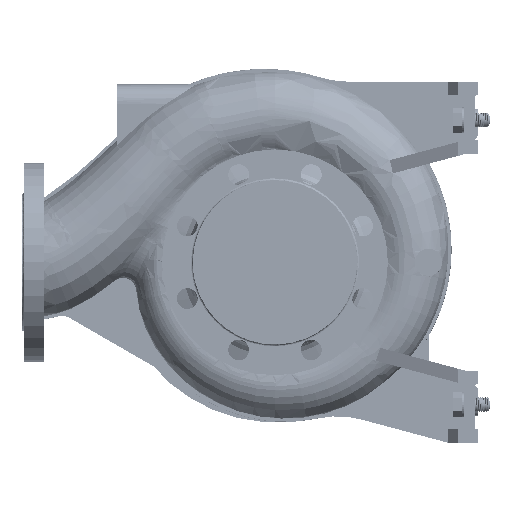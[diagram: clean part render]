
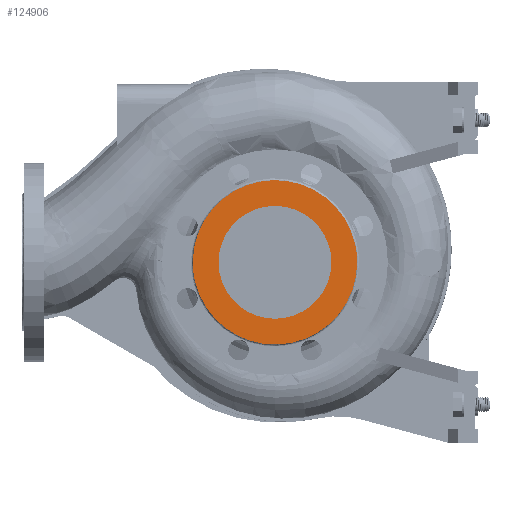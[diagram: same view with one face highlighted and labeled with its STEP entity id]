
A CAD part, left-side view. The second image highlights one B-rep face of the part: STEP entity #124906.
In plain terms, the highlighted planar face has unit normal (-1, 0, 0).
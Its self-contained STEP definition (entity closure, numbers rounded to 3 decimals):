
#8201 = EDGE_CURVE ( 'NONE', #123041, #121642, #147517, .T. ) ;
#9127 = CARTESIAN_POINT ( 'NONE',  ( -140., 90.707, -8.934 ) ) ;
#11046 = CARTESIAN_POINT ( 'NONE',  ( -140., 50.638, -75.785 ) ) ;
#16557 = CARTESIAN_POINT ( 'NONE',  ( -140., 0., 0. ) ) ;
#16700 = CARTESIAN_POINT ( 'NONE',  ( -140., 87.222, 26.458 ) ) ;
#18938 = CARTESIAN_POINT ( 'NONE',  ( -140., -84.615, -35.049 ) ) ;
#25073 = CARTESIAN_POINT ( 'NONE',  ( -140., -91., 0. ) ) ;
#26556 = AXIS2_PLACEMENT_3D ( 'NONE', #106239, #62474, #182044 ) ;
#27558 = CARTESIAN_POINT ( 'NONE',  ( -140., 89.395, -17.782 ) ) ;
#30326 = CARTESIAN_POINT ( 'NONE',  ( -140., -91., 5.956 ) ) ;
#33216 = CARTESIAN_POINT ( 'NONE',  ( -140., 32.194, 85.479 ) ) ;
#33538 = AXIS2_PLACEMENT_3D ( 'NONE', #16557, #46712, #58441 ) ;
#34515 = CARTESIAN_POINT ( 'NONE',  ( -140., -50.883, -76.151 ) ) ;
#34895 = CARTESIAN_POINT ( 'NONE',  ( -140., 91., 0. ) ) ;
#35892 = VERTEX_POINT ( 'NONE', #110847 ) ;
#38331 = CARTESIAN_POINT ( 'NONE',  ( -140., -89.827, -17.868 ) ) ;
#40242 = CARTESIAN_POINT ( 'NONE',  ( -140., 73.357, -54.405 ) ) ;
#40523 = EDGE_CURVE ( 'NONE', #80914, #35892, #136727, .T. ) ;
#44943 = CARTESIAN_POINT ( 'NONE',  ( -140., 73.357, 54.405 ) ) ;
#46712 = DIRECTION ( 'NONE',  ( -1., 0., 0. ) ) ;
#47819 = CARTESIAN_POINT ( 'NONE',  ( -140., 42.966, 80.384 ) ) ;
#48791 = CARTESIAN_POINT ( 'NONE',  ( -140., -64.762, 64.762 ) ) ;
#53873 = CARTESIAN_POINT ( 'NONE',  ( -140., 57.823, -70.457 ) ) ;
#54837 = CARTESIAN_POINT ( 'NONE',  ( -140., 91., 0. ) ) ;
#57727 = CARTESIAN_POINT ( 'NONE',  ( -140., 0.001, -91.586 ) ) ;
#58441 = DIRECTION ( 'NONE',  ( 0., 0., 1. ) ) ;
#62474 = DIRECTION ( 'NONE',  ( 1., 0., 0. ) ) ;
#63374 = CARTESIAN_POINT ( 'NONE',  ( -140., 0.001, 91.586 ) ) ;
#72315 = CARTESIAN_POINT ( 'NONE',  ( -140., 87.222, -26.458 ) ) ;
#76056 = CARTESIAN_POINT ( 'NONE',  ( -140., 65.552, 63.451 ) ) ;
#77000 = CARTESIAN_POINT ( 'NONE',  ( -140., 90.707, 8.934 ) ) ;
#77759 = AXIS2_PLACEMENT_3D ( 'NONE', #99838, #144520, #116326 ) ;
#79019 = FACE_BOUND ( 'NONE', #146973, .T. ) ;
#80914 = VERTEX_POINT ( 'NONE', #93392 ) ;
#84039 = CARTESIAN_POINT ( 'NONE',  ( -140., 91., -2.977 ) ) ;
#93392 = CARTESIAN_POINT ( 'NONE',  ( -140., 0., 62.5 ) ) ;
#93529 = CARTESIAN_POINT ( 'NONE',  ( -140., 89.395, 17.782 ) ) ;
#93599 = FACE_OUTER_BOUND ( 'NONE', #189606, .T. ) ;
#95030 = B_SPLINE_CURVE_WITH_KNOTS ( 'NONE', 3,
 ( #141403, #171524, #38331, #18938, #108412, #167714, #34515, #187048, #98614, #57727, #130638, #142344, #115102, #11046, #53873, #189904, #40242, #174386, #117004, #72315, #27558, #9127, #84039, #54837 ),
 .UNSPECIFIED., .F., .F.,
 ( 4, 1, 1, 1, 1, 1, 1, 1, 1, 1, 1, 1, 1, 1, 1, 1, 1, 1, 1, 1, 1, 4 ),
 ( 0., 0.018, 0.036, 0.054, 0.072, 0.09, 0.108, 0.126, 0.144, 0.161, 0.179, 0.188, 0.197, 0.206, 0.215, 0.229, 0.242, 0.251, 0.26, 0.269, 0.278, 0.287 ),
 .UNSPECIFIED. ) ;
#96264 = EDGE_CURVE ( 'NONE', #35892, #80914, #167079, .T. ) ;
#98614 = CARTESIAN_POINT ( 'NONE',  ( -140., -17.868, -89.827 ) ) ;
#99838 = CARTESIAN_POINT ( 'NONE',  ( -140., 0., 0. ) ) ;
#104570 = ORIENTED_EDGE ( 'NONE', *, *, #157881, .F. ) ;
#106239 = CARTESIAN_POINT ( 'NONE',  ( -140., -92.092, 92.181 ) ) ;
#107129 = CARTESIAN_POINT ( 'NONE',  ( -140., 50.638, 75.785 ) ) ;
#108089 = CARTESIAN_POINT ( 'NONE',  ( -140., -76.151, 50.883 ) ) ;
#108412 = CARTESIAN_POINT ( 'NONE',  ( -140., -76.151, -50.883 ) ) ;
#110847 = CARTESIAN_POINT ( 'NONE',  ( -140., 0., -62.5 ) ) ;
#115102 = CARTESIAN_POINT ( 'NONE',  ( -140., 42.966, -80.384 ) ) ;
#116326 = DIRECTION ( 'NONE',  ( 0., 0., 1. ) ) ;
#117004 = CARTESIAN_POINT ( 'NONE',  ( -140., 84.208, -34.88 ) ) ;
#120721 = CARTESIAN_POINT ( 'NONE',  ( -140., 84.208, 34.88 ) ) ;
#121642 = VERTEX_POINT ( 'NONE', #184542 ) ;
#122657 = CARTESIAN_POINT ( 'NONE',  ( -140., -35.049, 84.615 ) ) ;
#123041 = VERTEX_POINT ( 'NONE', #34895 ) ;
#124906 = ADVANCED_FACE ( 'NONE', ( #93599, #79019 ), #149997, .F. ) ;
#130638 = CARTESIAN_POINT ( 'NONE',  ( -140., 17.866, -89.828 ) ) ;
#136727 = CIRCLE ( 'NONE', #77759, 62.5 ) ;
#137339 = ORIENTED_EDGE ( 'NONE', *, *, #8201, .F. ) ;
#141403 = CARTESIAN_POINT ( 'NONE',  ( -140., -91., 0. ) ) ;
#142344 = CARTESIAN_POINT ( 'NONE',  ( -140., 32.194, -85.479 ) ) ;
#144520 = DIRECTION ( 'NONE',  ( -1., 0., 0. ) ) ;
#146973 = EDGE_LOOP ( 'NONE', ( #191596, #174156 ) ) ;
#147517 = B_SPLINE_CURVE_WITH_KNOTS ( 'NONE', 3,
 ( #150871, #180999, #77000, #93529, #16700, #120721, #178131, #44943, #76056, #163555, #107129, #47819, #33216, #151831, #63374, #148957, #122657, #181970, #48791, #108089, #167388, #152798, #30326, #25073 ),
 .UNSPECIFIED., .F., .F.,
 ( 4, 1, 1, 1, 1, 1, 1, 1, 1, 1, 1, 1, 1, 1, 1, 1, 1, 1, 1, 1, 1, 4 ),
 ( 0., 0.009, 0.018, 0.027, 0.036, 0.045, 0.058, 0.072, 0.081, 0.09, 0.099, 0.108, 0.126, 0.143, 0.161, 0.179, 0.197, 0.215, 0.233, 0.251, 0.269, 0.287 ),
 .UNSPECIFIED. ) ;
#148957 = CARTESIAN_POINT ( 'NONE',  ( -140., -17.868, 89.827 ) ) ;
#149997 = PLANE ( 'NONE',  #26556 ) ;
#150871 = CARTESIAN_POINT ( 'NONE',  ( -140., 91., 0. ) ) ;
#151831 = CARTESIAN_POINT ( 'NONE',  ( -140., 17.866, 89.828 ) ) ;
#152798 = CARTESIAN_POINT ( 'NONE',  ( -140., -89.827, 17.868 ) ) ;
#157881 = EDGE_CURVE ( 'NONE', #121642, #123041, #95030, .T. ) ;
#163555 = CARTESIAN_POINT ( 'NONE',  ( -140., 57.823, 70.457 ) ) ;
#167079 = CIRCLE ( 'NONE', #33538, 62.5 ) ;
#167388 = CARTESIAN_POINT ( 'NONE',  ( -140., -84.615, 35.049 ) ) ;
#167714 = CARTESIAN_POINT ( 'NONE',  ( -140., -64.762, -64.762 ) ) ;
#171524 = CARTESIAN_POINT ( 'NONE',  ( -140., -91., -5.956 ) ) ;
#174156 = ORIENTED_EDGE ( 'NONE', *, *, #96264, .F. ) ;
#174386 = CARTESIAN_POINT ( 'NONE',  ( -140., 79.748, -44.311 ) ) ;
#178131 = CARTESIAN_POINT ( 'NONE',  ( -140., 79.748, 44.311 ) ) ;
#180999 = CARTESIAN_POINT ( 'NONE',  ( -140., 91., 2.977 ) ) ;
#181970 = CARTESIAN_POINT ( 'NONE',  ( -140., -50.883, 76.151 ) ) ;
#182044 = DIRECTION ( 'NONE',  ( 0., 0., -1. ) ) ;
#184542 = CARTESIAN_POINT ( 'NONE',  ( -140., -91., 0. ) ) ;
#187048 = CARTESIAN_POINT ( 'NONE',  ( -140., -35.049, -84.615 ) ) ;
#189606 = EDGE_LOOP ( 'NONE', ( #104570, #137339 ) ) ;
#189904 = CARTESIAN_POINT ( 'NONE',  ( -140., 65.552, -63.451 ) ) ;
#191596 = ORIENTED_EDGE ( 'NONE', *, *, #40523, .F. ) ;
